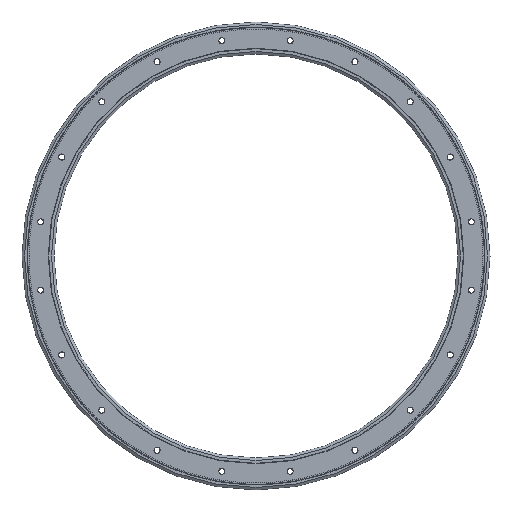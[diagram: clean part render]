
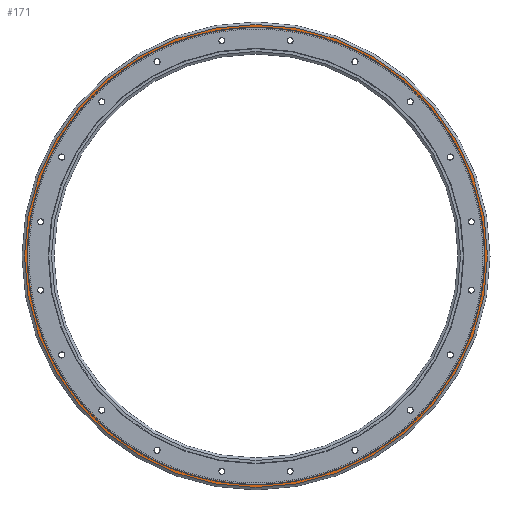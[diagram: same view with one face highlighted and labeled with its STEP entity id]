
A CAD part, front view. The second image highlights one B-rep face of the part: STEP entity #171.
In plain terms, the highlighted planar face has unit normal (0, -1, 0).
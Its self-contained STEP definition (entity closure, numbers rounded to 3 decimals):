
#171 = ADVANCED_FACE( '', ( #4810, #4811 ), #4812, .T. );
#4810 = FACE_OUTER_BOUND( '', #13772, .T. );
#4811 = FACE_BOUND( '', #13773, .T. );
#4812 = PLANE( '', #13774 );
#13772 = EDGE_LOOP( '', ( #25111 ) );
#13773 = EDGE_LOOP( '', ( #25112 ) );
#13774 = AXIS2_PLACEMENT_3D( '', #25113, #25114, #25115 );
#25111 = ORIENTED_EDGE( '', *, *, #61207, .T. );
#25112 = ORIENTED_EDGE( '', *, *, #61208, .F. );
#25113 = CARTESIAN_POINT( '', ( 537.95, 15., 0. ) );
#25114 = DIRECTION( '', ( 0., -1., 0. ) );
#25115 = DIRECTION( '', ( 0., 0., -1. ) );
#61207 = EDGE_CURVE( '', #75122, #75122, #75123, .T. );
#61208 = EDGE_CURVE( '', #75124, #75124, #75125, .T. );
#75122 = VERTEX_POINT( '', #95541 );
#75123 = CIRCLE( '', #95542, 548.443 );
#75124 = VERTEX_POINT( '', #95543 );
#75125 = CIRCLE( '', #95544, 537.95 );
#95541 = CARTESIAN_POINT( '', ( 0., 15., -548.443 ) );
#95542 = AXIS2_PLACEMENT_3D( '', #123205, #123206, #123207 );
#95543 = CARTESIAN_POINT( '', ( 0., 15., -537.95 ) );
#95544 = AXIS2_PLACEMENT_3D( '', #123208, #123209, #123210 );
#123205 = CARTESIAN_POINT( '', ( 0., 15., 0. ) );
#123206 = DIRECTION( '', ( 0., -1., 0. ) );
#123207 = DIRECTION( '', ( 0., 0., -1. ) );
#123208 = CARTESIAN_POINT( '', ( 0., 15., 0. ) );
#123209 = DIRECTION( '', ( 0., -1., 0. ) );
#123210 = DIRECTION( '', ( 0., 0., -1. ) );
